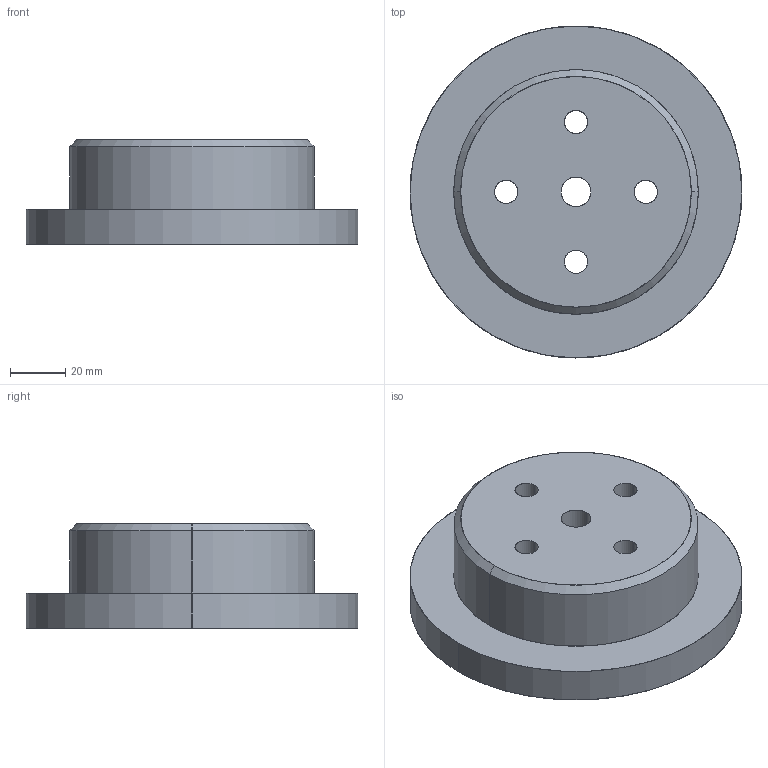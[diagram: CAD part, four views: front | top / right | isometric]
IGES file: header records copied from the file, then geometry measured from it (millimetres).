
Start section: SolidWorks IGES FILE using analytic representation for surfaces
Global section: file name: G:\Work In Progress\900252_ROV Marker Tool\900252-Release_Drawings\Top Plug.IGS; native system: SolidWorks 2003 by SolidWorks Corporation; preprocessor: Version 5.3; author: mob; date: 030129.110356; units: inch
Bounding box: 120.65 x 120.65 x 38.1 mm (x, y, z)
Surface area: 39705 mm2 (no closed solid volume)
Topology: 0 solids, 0 shells, 34 faces, 1000 edges, 1000 vertices
Faces by surface type: revolution 26, bspline 8
